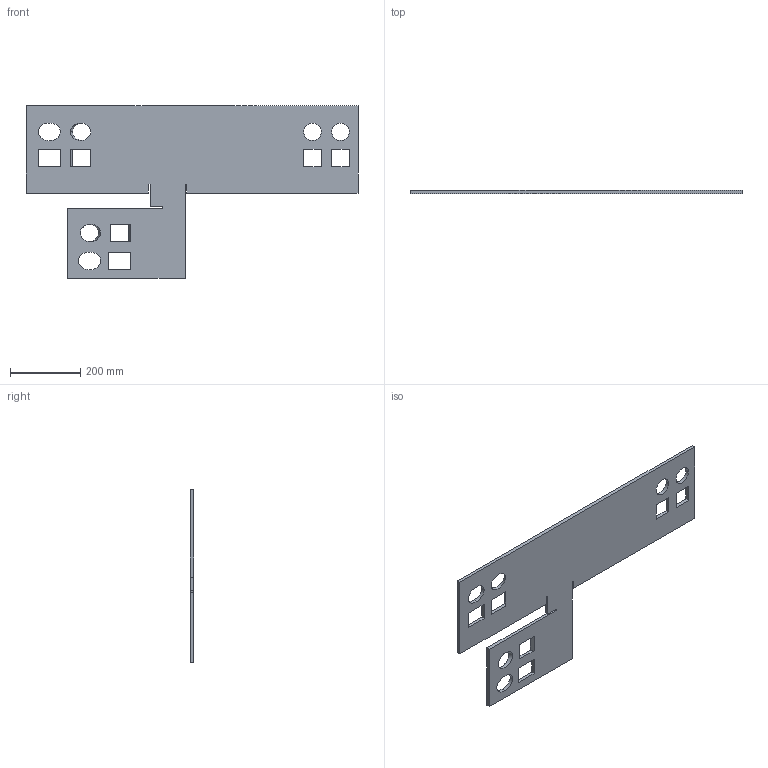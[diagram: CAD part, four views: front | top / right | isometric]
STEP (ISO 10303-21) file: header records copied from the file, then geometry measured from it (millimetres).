
FILE_DESCRIPTION (( 'STEP AP214' ), '1' );
FILE_NAME ('BlechbeispielSolidWorks_abgewickelt.STEP', '2009-05-10T11:26:31', ( 'RTide' ), ( 'TIDE' ), 'SwSTEP 2.0', 'SolidWorks 2009', '' );
FILE_SCHEMA (( 'AUTOMOTIVE_DESIGN' ));
Length unit declared in the file: millimetre
Products named in the file (1): BlechbeispielSolidWorks_abgewickelt
Bounding box: 947.72 x 10 x 493.56 mm (x, y, z)
Volume: 2771888.4 mm3; surface area: 613199.6 mm2
Topology: 1 solids, 1 shells, 56 faces, 162 edges, 108 vertices
Faces by surface type: plane 41, cylinder 9, bspline 6
Entity records: 1929 total; most frequent: CARTESIAN_POINT 453, ORIENTED_EDGE 324, DIRECTION 254, EDGE_CURVE 162, VECTOR 132, LINE 132, VERTEX_POINT 108, EDGE_LOOP 80
